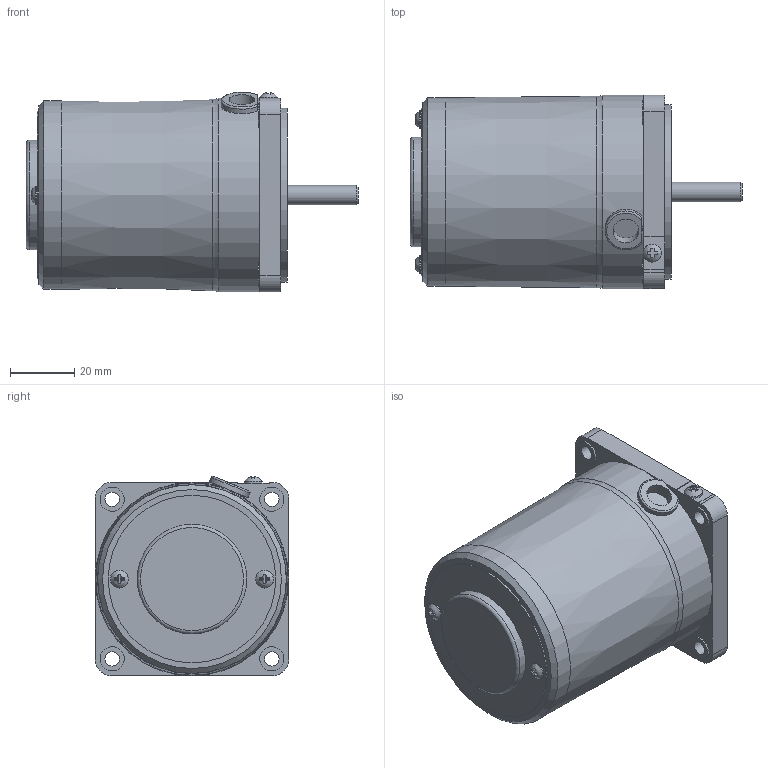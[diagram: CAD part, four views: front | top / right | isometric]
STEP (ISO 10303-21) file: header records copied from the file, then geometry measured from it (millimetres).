
FILE_DESCRIPTION(/* description */ (''),/* implementation_level */ '2;1');
FILE_NAME(/* name */ 'E:\도면작업\2016\0704) 미주향 SG 도면\3D MOTOR\SG6R\SG6R06S\SG6R06S_.stp',/* time_stamp */ '2016-12-12T16:15:07+09:00',/* author */ ('jy-jung'),/* organization */ (''),/* preprocessor_version */ 'ST-DEVELOPER v15.6',/* originating_system */ 'Autodesk Inventor 2015',/* authorisation */ '');
FILE_SCHEMA (('AUTOMOTIVE_DESIGN { 1 0 10303 214 3 1 1 }'));
Length unit declared in the file: millimetre
Products named in the file (1): 부품4
Bounding box: 103 x 60 x 61.91 mm (x, y, z)
Volume: 214249.3 mm3; surface area: 24225.3 mm2
Topology: 1 solids, 5 shells, 149 faces, 370 edges, 241 vertices
Faces by surface type: plane 98, cylinder 38, torus 7, bspline 3, cone 3
Full cylindrical faces by diameter (mm): 3 x2, 3.5 x2, 4.5 x4, 5.6 x3, 6 x1, 7.5 x4, 8 x1, 10.1 x1, 25 x1, 34 x1, 52 x1, 54 x1, 58.5 x1, 60 x1
Entity records: 4703 total; most frequent: CARTESIAN_POINT 1087, DIRECTION 682, ORIENTED_EDGE 670, EDGE_CURVE 335, AXIS2_PLACEMENT_3D 247, VERTEX_POINT 239, EDGE_LOOP 210, LINE 188
